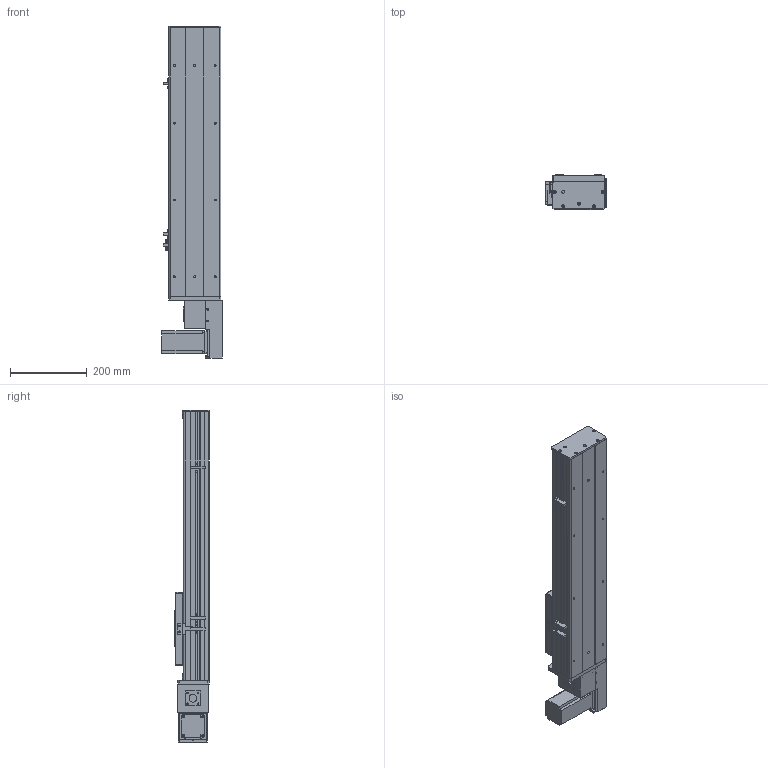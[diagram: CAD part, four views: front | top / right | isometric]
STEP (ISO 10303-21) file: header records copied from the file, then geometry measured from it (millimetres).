
FILE_DESCRIPTION (( 'STEP AP203' ), '1' );
FILE_NAME ('Y135CB-D90-S400-BL-P400W.STEP', '2020-02-17T08:24:55', ( '微软用户' ), ( '微软中国' ), 'SwSTEP 2.0', 'SolidWorks 2017', '' );
FILE_SCHEMA (( 'CONFIG_CONTROL_DESIGN' ));
Length unit declared in the file: millimetre
Products named in the file (18): 5C--俋欶; 0B-源倛裔啣; C-雄赽釱--; 0B-萇儂楊擘啣; Y135CB-耜裔; Y135CB-D90-S400-BL-P400W; san松下电机400不带刹车----; 135CB---遴掛极.-; 5CB --掛极耜裔啣-; 35CB---喘謫眊楊擘啣; C-詩湍揤踡え-陔; Y10B--々湍喘謫眊--666; 135CB--詩湍-CE; Y10B-耜蚾蟀諉啣----; Y100-135俋离換覜ん--; Y俋欶BR----; Y135C-陔俋离換覜結え-; 0B-埴倛裔啣
Assembly tree (21 placements, depth 2):
  Y135CB-D90-S400-BL-P400W
    Y135CB-耜裔
    135CB---遴掛极.-
    35CB---喘謫眊楊擘啣
    Y10B--々湍喘謫眊--666
    Y10B-耜蚾蟀諉啣----
    Y俋欶BR----
    0B-埴倛裔啣
    0B-源倛裔啣
    0B-萇儂楊擘啣
    san松下电机400不带刹车----
    5CB --掛极耜裔啣-  x2
    C-詩湍揤踡え-陔  x2
    135CB--詩湍-CE
    Y100-135俋离換覜ん--  x3
    Y135C-陔俋离換覜結え-
    5C--俋欶
    C-雄赽釱--
Bounding box: 157.5 x 91 x 864.5 mm (x, y, z)
Volume: 2829155.6 mm3; surface area: 1091812.1 mm2
Topology: 21 solids, 21 shells, 933 faces, 2473 edges, 1638 vertices
Faces by surface type: cylinder 459, plane 458, cone 16
Entity records: 28735 total; most frequent: DIRECTION 4769, CARTESIAN_POINT 4680, ORIENTED_EDGE 4422, EDGE_CURVE 2211, AXIS2_PLACEMENT_3D 1731, VERTEX_POINT 1466, VECTOR 1307, LINE 1307
